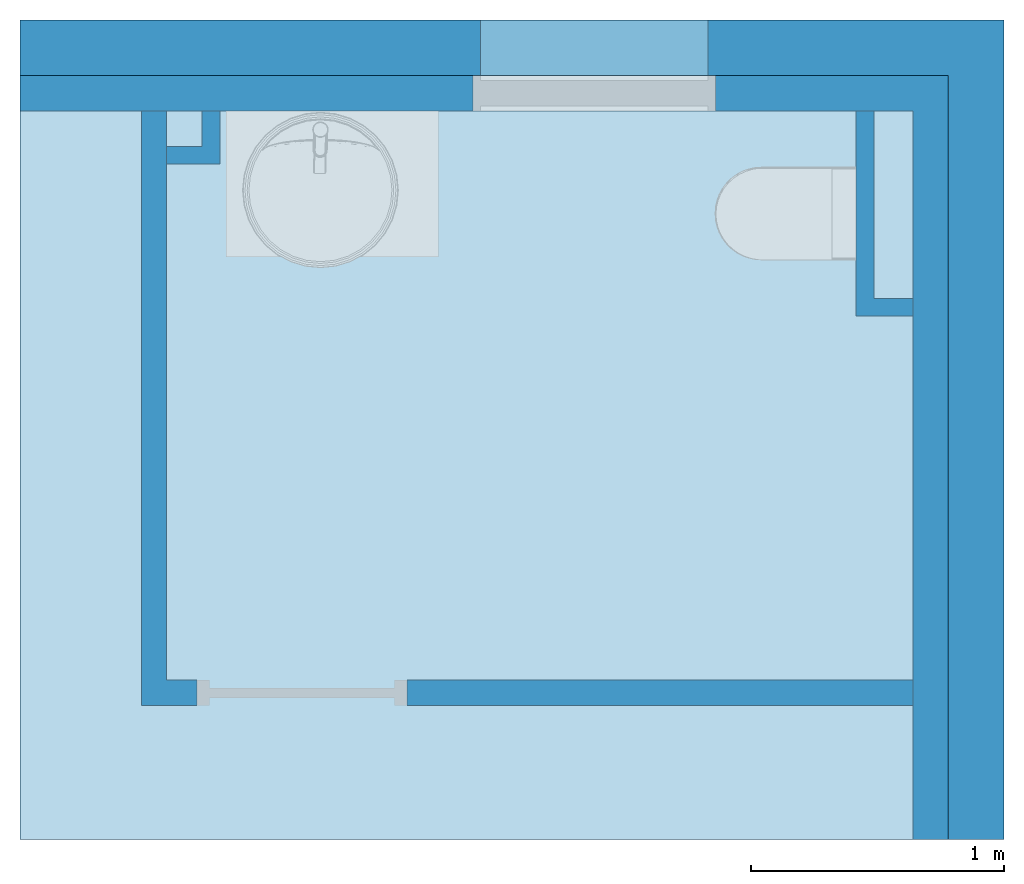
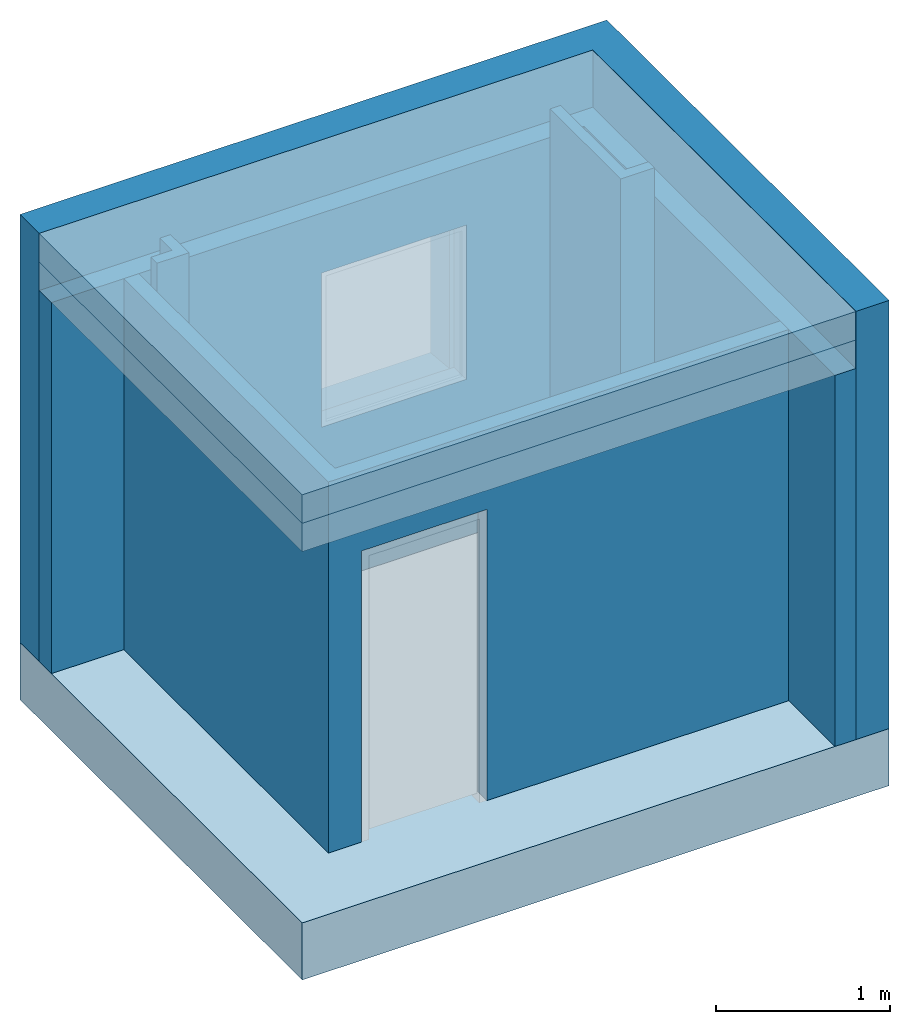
# Not in any storey, part 1 of 3: 5 walls, 3 slabs.
"""IFC4 model written with IfcOpenShell, lengths in metres."""

from ifc_helpers import new_model, si_unit, direction, origin_with_axes, place, context, subcontext, project, faceted_brep, element, save


model = new_model("IFC4")

# Units and contexts
model_context = context("Model", 3, precision=1e-05, world=origin_with_axes(), true_north=direction((1.0, 0.0)))
body_context = subcontext(model_context, "Body", "Model", "MODEL_VIEW")
ifc_project = project(units=[si_unit("LENGTHUNIT", "METRE"), si_unit("AREAUNIT", "SQUARE_METRE"), si_unit("VOLUMEUNIT", "CUBIC_METRE"), si_unit("MASSUNIT", "GRAM", prefix="KILO"), si_unit("TIMEUNIT", "SECOND"), si_unit("PLANEANGLEUNIT", "RADIAN"), si_unit("SOLIDANGLEUNIT", "STERADIAN")], contexts=[model_context])

# Slabs
placement = place(None, origin_with_axes())
element("IfcSlab", 1, at=placement, PredefinedType="NOTDEFINED", context=body_context, shape_type="Brep", body=[
    faceted_brep([(18.26068, 13.367147, 2.6), (18.26068, 10.347055, 2.6), (14.592682, 10.347055, 2.6), (14.592682, 13.367147, 2.6), (18.26068, 10.347055, 2.8), (18.26068, 13.367147, 2.8), (14.592682, 13.367147, 2.8), (14.592682, 10.347055, 2.8)], [[[0, 1, 2, 3]], [[4, 5, 6, 7]], [[1, 0, 5, 4]], [[0, 3, 6, 5]], [[3, 2, 7, 6]], [[2, 1, 4, 7]]]),
])
element("IfcSlab", 2, at=placement, PredefinedType="NOTDEFINED", context=body_context, shape_type="Brep", body=[
    faceted_brep([(14.592682, 10.347055, 0.0), (18.482682, 10.347055, 0.0), (18.482682, 13.587147, 0.0), (14.592682, 13.587147, 0.0), (18.482682, 10.347055, -0.4), (14.592682, 10.347055, -0.4), (14.592682, 13.587147, -0.4), (18.482682, 13.587147, -0.4)], [[[0, 1, 2, 3]], [[4, 5, 6, 7]], [[1, 0, 5, 4]], [[2, 1, 4, 7]], [[3, 2, 7, 6]], [[0, 3, 6, 5]]]),
])
element("IfcSlab", 3, at=placement, PredefinedType="NOTDEFINED", context=body_context, shape_type="Brep", body=[
    faceted_brep([(18.26068, 13.367147, 2.8), (18.26068, 10.347055, 2.8), (14.592682, 10.347055, 2.8), (14.592682, 13.367147, 2.8), (18.26068, 10.347055, 3.0), (18.26068, 13.367147, 3.0), (14.592682, 13.367147, 3.0), (14.592682, 10.347055, 3.0)], [[[0, 1, 2, 3]], [[4, 5, 6, 7]], [[1, 0, 5, 4]], [[0, 3, 6, 5]], [[3, 2, 7, 6]], [[2, 1, 4, 7]]]),
])

# Walls
element("IfcWall", 4, at=placement, PredefinedType="NOTDEFINED", context=body_context, shape_type="AdvancedBrep", body=[
    faceted_brep([(18.122682, 13.227147, 0.0), (16.382682, 13.227147, 0.0), (16.382682, 13.367147, 0.0), (18.262682, 13.367147, 0.0), (18.262682, 10.347055, 0.0), (18.122682, 10.347055, 0.0), (18.122682, 10.877147, 0.0), (18.122682, 10.977147, 0.0), (14.592682, 13.227147, 0.0), (14.592682, 13.367147, 0.0), (15.172682, 13.227147, 0.0), (15.072682, 13.227147, 0.0), (14.592682, 13.227147, 2.6), (14.592682, 13.367147, 2.6), (17.342682, 13.367147, 2.6), (17.342682, 13.367147, 2.18), (16.382682, 13.367147, 2.18), (16.382682, 13.367147, 1.1), (15.172682, 13.227147, 2.6), (15.072682, 13.227147, 2.6), (18.262682, 13.367147, 2.6), (18.122682, 13.227147, 2.6), (18.122682, 10.977147, 2.6), (18.122682, 10.877147, 2.6), (18.122682, 10.347055, 2.6), (18.262682, 10.347055, 2.6), (17.342682, 13.227147, 1.1), (16.382682, 13.227147, 1.1), (16.382682, 13.227147, 2.18), (17.342682, 13.227147, 2.18), (17.342682, 13.367147, 1.1)], [[[0, 1, 2, 3, 4, 5, 6, 7]], [[8, 9, 2, 1, 10, 11]], [[9, 8, 12, 13]], [[2, 9, 13, 14, 15, 16, 17]], [[11, 10, 18, 19]], [[8, 11, 19, 12]], [[20, 14, 13, 12, 19, 18, 21, 22, 23, 24, 25]], [[10, 1, 0, 21, 18], [26, 27, 28, 29]], [[15, 30, 26, 29]], [[3, 2, 17, 30, 15, 14, 20]], [[4, 3, 20, 25]], [[5, 4, 25, 24]], [[6, 5, 24, 23]], [[7, 6, 23, 22]], [[0, 7, 22, 21]], [[28, 27, 17, 16]], [[28, 16, 15, 29]], [[26, 30, 17, 27]]]),
])
element("IfcWall", 5, at=placement, PredefinedType="NOTDEFINED", context=body_context, shape_type="Brep", body=[
    faceted_brep([(18.122682, 10.877147, 0.0), (16.122682, 10.877147, 0.0), (16.122682, 10.977147, 0.0), (18.122682, 10.977147, 0.0), (18.122682, 10.977147, 2.6), (15.172682, 10.977147, 2.6), (15.172682, 13.227147, 2.6), (15.072682, 13.227147, 2.6), (15.072682, 10.877147, 2.6), (18.122682, 10.877147, 2.6), (16.122682, 10.977147, 2.04), (15.292682, 10.977147, 2.04), (15.292682, 10.977147, 0.0), (15.172682, 10.977147, 0.0), (15.072682, 10.877147, 0.0), (15.292682, 10.877147, 0.0), (15.292682, 10.877147, 2.04), (16.122682, 10.877147, 2.04), (15.072682, 13.227147, 0.0), (15.172682, 13.227147, 0.0)], [[[0, 1, 2, 3]], [[4, 5, 6, 7, 8, 9]], [[3, 2, 10, 11, 12, 13, 5, 4]], [[0, 3, 4, 9]], [[14, 15, 16, 17, 1, 0, 9, 8]], [[18, 14, 8, 7]], [[19, 18, 7, 6]], [[13, 19, 6, 5]], [[12, 11, 16, 15]], [[11, 10, 17, 16]], [[10, 2, 1, 17]], [[12, 15, 14, 18, 19, 13]]]),
])
element("IfcWall", 6, at=placement, PredefinedType="NOTDEFINED", context=body_context, shape_type="Brep", body=[
    faceted_brep([(17.898543, 13.227147, 0.0), (17.968543, 13.227147, 0.0), (17.968543, 12.487147, 0.0), (18.122682, 12.487147, 0.0), (18.122682, 12.417147, 0.0), (17.898543, 12.417147, 0.0), (17.968543, 13.227147, 2.8), (17.898543, 13.227147, 2.8), (17.898543, 12.417147, 2.8), (18.122682, 12.417147, 2.8), (18.122682, 12.487147, 2.8), (17.968543, 12.487147, 2.8)], [[[0, 1, 2, 3, 4, 5]], [[6, 7, 8, 9, 10, 11]], [[1, 0, 7, 6]], [[0, 5, 8, 7]], [[5, 4, 9, 8]], [[4, 3, 10, 9]], [[3, 2, 11, 10]], [[2, 1, 6, 11]]]),
])
element("IfcWall", 7, at=placement, PredefinedType="NOTDEFINED", context=body_context, shape_type="Brep", body=[
    faceted_brep([(15.172682, 13.017147, 0.0), (15.172682, 13.087147, 0.0), (15.312682, 13.087147, 0.0), (15.312682, 13.227147, 0.0), (15.382682, 13.227147, 0.0), (15.382682, 13.017147, 0.0), (15.172682, 13.087147, 2.8), (15.172682, 13.017147, 2.8), (15.382682, 13.017147, 2.8), (15.382682, 13.227147, 2.8), (15.312682, 13.227147, 2.8), (15.312682, 13.087147, 2.8)], [[[0, 1, 2, 3, 4, 5]], [[6, 7, 8, 9, 10, 11]], [[1, 0, 7, 6]], [[0, 5, 8, 7]], [[5, 4, 9, 8]], [[4, 3, 10, 9]], [[3, 2, 11, 10]], [[2, 1, 6, 11]]]),
])
element("IfcWall", 8, at=placement, PredefinedType="NOTDEFINED", context=body_context, shape_type="AdvancedBrep", body=[
    faceted_brep([(18.482682, 10.347055, 0.0), (18.262682, 10.347055, 0.0), (18.262682, 13.367147, 0.0), (17.312682, 13.367147, 0.0), (17.312682, 13.587147, 0.0), (18.482682, 13.587147, 0.0), (14.592682, 13.367147, 0.0), (14.592682, 13.587147, 0.0), (17.312682, 13.587147, 2.15), (17.312682, 13.587147, 1.08), (17.312682, 13.371142, 1.1), (17.312682, 13.367147, 1.1), (17.312682, 13.367147, 2.15), (14.592682, 13.587147, 3.0), (18.482682, 13.587147, 3.0), (16.412682, 13.587147, 1.08), (16.412682, 13.587147, 2.15), (18.482682, 10.347055, 3.0), (18.262682, 10.347055, 3.0), (14.592682, 13.367147, 3.0), (18.262682, 13.367147, 3.0), (14.592682, 13.367147, 2.8), (16.412682, 13.371142, 1.1), (16.412682, 13.367147, 2.15), (16.412682, 13.367147, 1.10037), (16.412682, 13.367147, 1.1), (16.412682, 13.337147, 1.1), (17.312682, 13.337147, 1.1), (16.412682, 13.337147, 1.07), (17.312682, 13.337147, 1.07), (16.412682, 13.367147, 1.07), (17.312682, 13.367147, 1.07)], [[[0, 1, 2, 3, 4, 5]], [[3, 6, 7, 4]], [[8, 9, 10, 11, 12]], [[5, 4, 7, 13, 14], [15, 9, 8, 16]], [[0, 5, 14, 17]], [[1, 0, 17, 18]], [[19, 20, 18, 17, 14, 13]], [[7, 6, 21, 19, 13]], [[22, 15, 16, 23, 24]], [[23, 16, 8, 12]], [[15, 22, 10, 9]], [[22, 25, 26, 27, 11, 10]], [[27, 26, 28, 29]], [[25, 30, 28, 26]], [[30, 31, 29, 28]], [[31, 11, 27, 29]], [[25, 22, 24]], [[6, 3, 2, 20, 19, 21], [12, 11, 31, 30, 25, 24, 23]], [[18, 20, 2, 1]]]),
])

save(model, "model.ifc")
